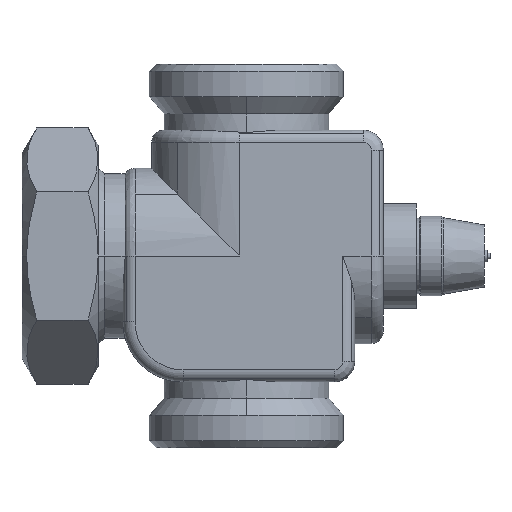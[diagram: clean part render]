
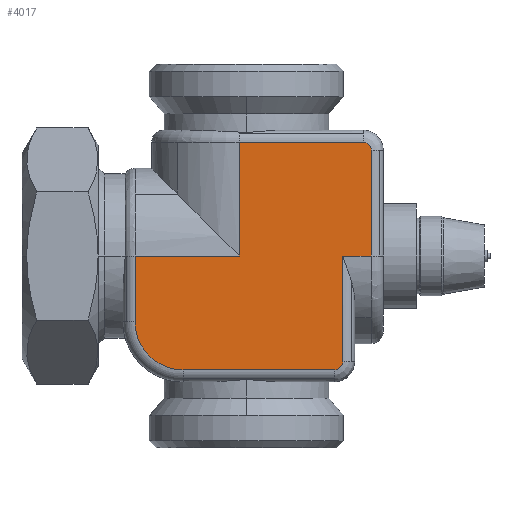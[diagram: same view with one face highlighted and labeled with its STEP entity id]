
A CAD part, left-side view. The second image highlights one B-rep face of the part: STEP entity #4017.
In plain terms, the highlighted planar face has unit normal (-1, 0, 0).
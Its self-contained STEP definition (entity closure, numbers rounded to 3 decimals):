
#3304=CARTESIAN_POINT('',(-29.666,37.727,65.));
#3305=VERTEX_POINT('',#3304);
#3424=CARTESIAN_POINT('',(-29.666,2.441,103.556));
#3425=VERTEX_POINT('',#3424);
#3433=CARTESIAN_POINT('',(-29.666,-39.562,103.556));
#3434=VERTEX_POINT('',#3433);
#3435=CARTESIAN_POINT('',(-29.666,2.441,103.556));
#3436=DIRECTION('',(0.0,-1.0,0.0));
#3437=VECTOR('',#3436,42.004);
#3438=LINE('',#3435,#3437);
#3439=EDGE_CURVE('',#3425,#3434,#3438,.T.);
#3711=CARTESIAN_POINT('',(-29.666,21.471,26.444));
#3712=VERTEX_POINT('',#3711);
#3713=CARTESIAN_POINT('',(-29.666,37.727,42.699));
#3714=VERTEX_POINT('',#3713);
#3715=CARTESIAN_POINT('',(-29.666,21.471,42.699));
#3716=DIRECTION('',(1.0,0.,0.));
#3717=DIRECTION('',(0.,0.707,-0.707));
#3718=AXIS2_PLACEMENT_3D('',#3715,#3716,#3717);
#3719=CIRCLE('',#3718,16.255);
#3720=EDGE_CURVE('',#3712,#3714,#3719,.T.);
#3750=CARTESIAN_POINT('',(-29.666,37.727,42.699));
#3751=DIRECTION('',(0.0,0.0,1.0));
#3752=VECTOR('',#3751,22.301);
#3753=LINE('',#3750,#3752);
#3754=EDGE_CURVE('',#3714,#3305,#3753,.T.);
#3892=CARTESIAN_POINT('',(-29.666,2.441,65.));
#3893=VERTEX_POINT('',#3892);
#3901=CARTESIAN_POINT('',(-29.666,2.441,65.));
#3902=DIRECTION('',(0.0,0.0,1.0));
#3903=VECTOR('',#3902,38.556);
#3904=LINE('',#3901,#3903);
#3905=EDGE_CURVE('',#3893,#3425,#3904,.T.);
#3918=CARTESIAN_POINT('',(-29.666,37.727,65.));
#3919=DIRECTION('',(0.0,-1.0,0.0));
#3920=VECTOR('',#3919,35.286);
#3921=LINE('',#3918,#3920);
#3922=EDGE_CURVE('',#3305,#3893,#3921,.T.);
#3957=CARTESIAN_POINT('',(-29.666,-0.149,58.523));
#3958=DIRECTION('',(1.0,0.0,0.0));
#3959=DIRECTION('',(0.0,0.0,1.0));
#3960=AXIS2_PLACEMENT_3D('',#3957,#3958,#3959);
#3961=PLANE('',#3960);
#3962=CARTESIAN_POINT('',(-29.666,-29.879,26.444));
#3963=VERTEX_POINT('',#3962);
#3964=CARTESIAN_POINT('',(-29.666,-29.879,26.444));
#3965=DIRECTION('',(0.0,1.0,0.0));
#3966=VECTOR('',#3965,51.35);
#3967=LINE('',#3964,#3966);
#3968=EDGE_CURVE('',#3963,#3712,#3967,.T.);
#3969=ORIENTED_EDGE('',*,*,#3968,.F.);
#3970=CARTESIAN_POINT('',(-29.666,-32.588,29.153));
#3971=VERTEX_POINT('',#3970);
#3972=CARTESIAN_POINT('',(-29.666,-29.879,29.153));
#3973=DIRECTION('',(1.,0.,0.));
#3974=DIRECTION('',(0.,-0.707,-0.707));
#3975=AXIS2_PLACEMENT_3D('',#3972,#3973,#3974);
#3976=CIRCLE('',#3975,2.709);
#3977=EDGE_CURVE('',#3971,#3963,#3976,.T.);
#3978=ORIENTED_EDGE('',*,*,#3977,.F.);
#3979=CARTESIAN_POINT('',(-29.666,-32.588,65.));
#3980=VERTEX_POINT('',#3979);
#3981=CARTESIAN_POINT('',(-29.666,-32.588,65.));
#3982=DIRECTION('',(0.0,0.0,-1.0));
#3983=VECTOR('',#3982,35.847);
#3984=LINE('',#3981,#3983);
#3985=EDGE_CURVE('',#3980,#3971,#3984,.T.);
#3986=ORIENTED_EDGE('',*,*,#3985,.F.);
#3987=CARTESIAN_POINT('',(-29.666,-42.272,65.));
#3988=VERTEX_POINT('',#3987);
#3989=CARTESIAN_POINT('',(-29.666,-32.588,65.));
#3990=DIRECTION('',(0.0,-1.0,0.0));
#3991=VECTOR('',#3990,9.683);
#3992=LINE('',#3989,#3991);
#3993=EDGE_CURVE('',#3980,#3988,#3992,.T.);
#3994=ORIENTED_EDGE('',*,*,#3993,.T.);
#3995=CARTESIAN_POINT('',(-29.666,-42.272,100.847));
#3996=VERTEX_POINT('',#3995);
#3997=CARTESIAN_POINT('',(-29.666,-42.272,100.847));
#3998=DIRECTION('',(0.0,0.0,-1.0));
#3999=VECTOR('',#3998,35.847);
#4000=LINE('',#3997,#3999);
#4001=EDGE_CURVE('',#3996,#3988,#4000,.T.);
#4002=ORIENTED_EDGE('',*,*,#4001,.F.);
#4003=CARTESIAN_POINT('',(-29.666,-39.562,100.847));
#4004=DIRECTION('',(1.,0.,0.));
#4005=DIRECTION('',(0.,-0.707,0.707));
#4006=AXIS2_PLACEMENT_3D('',#4003,#4004,#4005);
#4007=CIRCLE('',#4006,2.709);
#4008=EDGE_CURVE('',#3434,#3996,#4007,.T.);
#4009=ORIENTED_EDGE('',*,*,#4008,.F.);
#4010=ORIENTED_EDGE('',*,*,#3439,.F.);
#4011=ORIENTED_EDGE('',*,*,#3905,.F.);
#4012=ORIENTED_EDGE('',*,*,#3922,.F.);
#4013=ORIENTED_EDGE('',*,*,#3754,.F.);
#4014=ORIENTED_EDGE('',*,*,#3720,.F.);
#4015=EDGE_LOOP('',(#3969,#3978,#3986,#3994,#4002,#4009,#4010,#4011,#4012,#4013,#4014));
#4016=FACE_OUTER_BOUND('',#4015,.T.);
#4017=ADVANCED_FACE('',(#4016),#3961,.F.);
